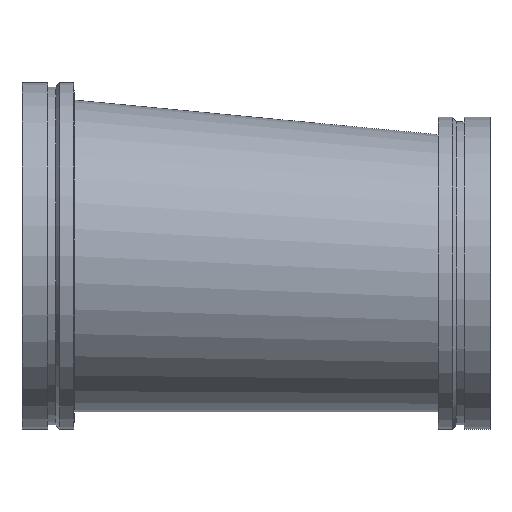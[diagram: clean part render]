
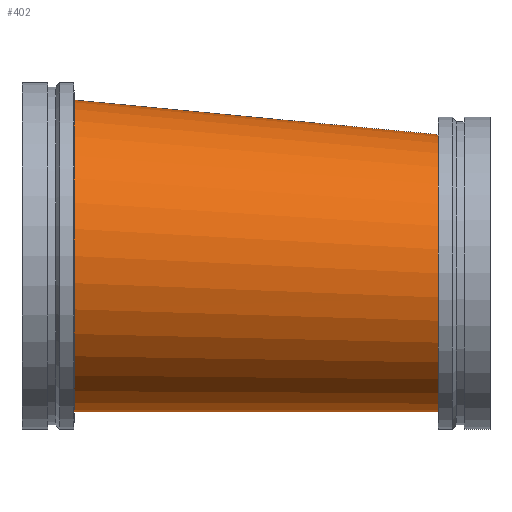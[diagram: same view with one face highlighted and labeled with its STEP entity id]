
A CAD part, top view. The second image highlights one B-rep face of the part: STEP entity #402.
In plain terms, the highlighted free-form (B-spline) face has degree [1, 2] with [2, 9] control points.
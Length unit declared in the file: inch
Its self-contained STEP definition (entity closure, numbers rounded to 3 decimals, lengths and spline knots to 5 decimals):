
#46=B_SPLINE_CURVE_WITH_KNOTS('',1,(#777,#778),.UNSPECIFIED.,.F.,.F.,(2,
2),(-2.33871,-0.00011),.UNSPECIFIED.);
#48=(
BOUNDED_SURFACE()
B_SPLINE_SURFACE(1,2,((#759,#760,#761,#762,#763,#764,#765,#766,#767),(#768,
#769,#770,#771,#772,#773,#774,#775,#776)),.UNSPECIFIED.,.F.,.T.,.F.)
B_SPLINE_SURFACE_WITH_KNOTS((2,2),(3,2,2,2,3),(-0.04751,2.38084),
(-3.14159,-1.5708,0.,1.5708,3.14159),
 .UNSPECIFIED.)
GEOMETRIC_REPRESENTATION_ITEM()
RATIONAL_B_SPLINE_SURFACE(((1.,0.707,1.,0.707,1.,
0.707,1.,0.707,1.),(1.,0.707,1.,0.707,
1.,0.707,1.,0.707,1.)))
REPRESENTATION_ITEM('')
SURFACE()
);
#98=FACE_OUTER_BOUND('',#120,.T.);
#120=EDGE_LOOP('',(#333,#334,#335,#336,#337,#338));
#129=CIRCLE('',#430,8.);
#130=CIRCLE('',#431,8.);
#153=CIRCLE('',#465,9.);
#154=CIRCLE('',#466,9.);
#169=VERTEX_POINT('',#652);
#170=VERTEX_POINT('',#653);
#193=VERTEX_POINT('',#719);
#194=VERTEX_POINT('',#720);
#209=EDGE_CURVE('',#169,#170,#129,.T.);
#210=EDGE_CURVE('',#170,#169,#130,.T.);
#241=EDGE_CURVE('',#193,#194,#153,.T.);
#242=EDGE_CURVE('',#194,#193,#154,.T.);
#252=EDGE_CURVE('',#170,#194,#46,.T.);
#333=ORIENTED_EDGE('',*,*,#209,.T.);
#334=ORIENTED_EDGE('',*,*,#252,.T.);
#335=ORIENTED_EDGE('',*,*,#242,.T.);
#336=ORIENTED_EDGE('',*,*,#241,.T.);
#337=ORIENTED_EDGE('',*,*,#252,.F.);
#338=ORIENTED_EDGE('',*,*,#210,.T.);
#402=ADVANCED_FACE('',(#98),#48,.F.);
#430=AXIS2_PLACEMENT_3D('',#654,#504,#505);
#431=AXIS2_PLACEMENT_3D('',#655,#506,#507);
#465=AXIS2_PLACEMENT_3D('',#721,#582,#583);
#466=AXIS2_PLACEMENT_3D('',#722,#584,#585);
#504=DIRECTION('center_axis',(-1.,0.,0.));
#505=DIRECTION('ref_axis',(0.,-1.,0.));
#506=DIRECTION('center_axis',(-1.,0.,0.));
#507=DIRECTION('ref_axis',(0.,-1.,0.));
#582=DIRECTION('center_axis',(1.,0.,0.));
#583=DIRECTION('ref_axis',(0.,1.,0.));
#584=DIRECTION('center_axis',(1.,0.,0.));
#585=DIRECTION('ref_axis',(0.,1.,0.));
#652=CARTESIAN_POINT('',(24.,-9.,0.));
#653=CARTESIAN_POINT('',(24.,-1.01806,7.99998));
#654=CARTESIAN_POINT('Origin',(24.,-1.,0.));
#655=CARTESIAN_POINT('Origin',(24.,-1.,0.));
#719=CARTESIAN_POINT('',(3.,9.,0.));
#720=CARTESIAN_POINT('',(3.,-0.02032,8.99998));
#721=CARTESIAN_POINT('Origin',(3.,0.,0.));
#722=CARTESIAN_POINT('Origin',(3.,0.,0.));
#759=CARTESIAN_POINT('Ctrl Pts',(2.5724,0.,
9.02034));
#760=CARTESIAN_POINT('Ctrl Pts',(2.14479,-9.,9.02034));
#761=CARTESIAN_POINT('Ctrl Pts',(2.14479,-9.,0.));
#762=CARTESIAN_POINT('Ctrl Pts',(2.14479,-9.,-9.02034));
#763=CARTESIAN_POINT('Ctrl Pts',(2.5724,0.,
-9.02034));
#764=CARTESIAN_POINT('Ctrl Pts',(3.,9.,-9.02034));
#765=CARTESIAN_POINT('Ctrl Pts',(3.,9.,0.));
#766=CARTESIAN_POINT('Ctrl Pts',(3.,9.,9.02034));
#767=CARTESIAN_POINT('Ctrl Pts',(2.5724,0.,
9.02034));
#768=CARTESIAN_POINT('Ctrl Pts',(24.37838,-1.03604,7.98196));
#769=CARTESIAN_POINT('Ctrl Pts',(24.,-9.,7.98196));
#770=CARTESIAN_POINT('Ctrl Pts',(24.,-9.,0.));
#771=CARTESIAN_POINT('Ctrl Pts',(24.,-9.,-7.98196));
#772=CARTESIAN_POINT('Ctrl Pts',(24.37838,-1.03604,-7.98196));
#773=CARTESIAN_POINT('Ctrl Pts',(24.75676,6.92793,-7.98196));
#774=CARTESIAN_POINT('Ctrl Pts',(24.75676,6.92793,0.));
#775=CARTESIAN_POINT('Ctrl Pts',(24.75676,6.92793,7.98196));
#776=CARTESIAN_POINT('Ctrl Pts',(24.37838,-1.03604,7.98196));
#777=CARTESIAN_POINT('Ctrl Pts',(24.,-1.01806,7.99998));
#778=CARTESIAN_POINT('Ctrl Pts',(3.,-0.02032,8.99998));
